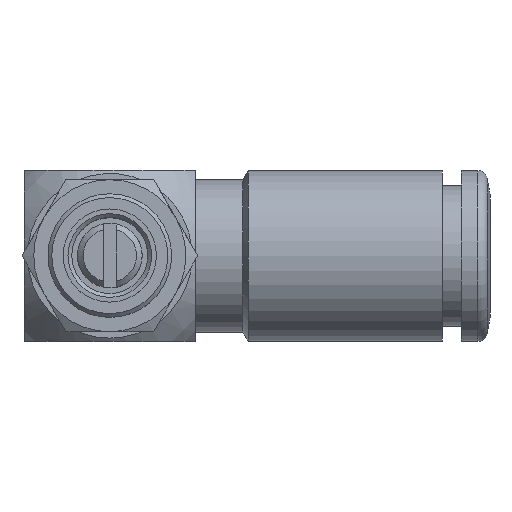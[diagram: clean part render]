
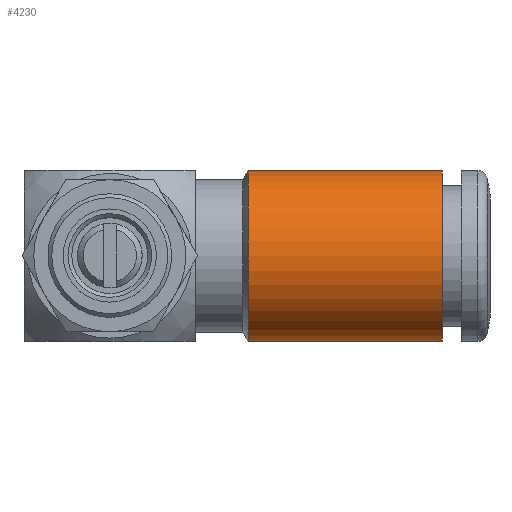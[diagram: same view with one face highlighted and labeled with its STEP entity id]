
A CAD part, top view. The second image highlights one B-rep face of the part: STEP entity #4230.
In plain terms, the highlighted cylindrical face has radius 4.5 mm (diameter 9 mm), a full revolution.
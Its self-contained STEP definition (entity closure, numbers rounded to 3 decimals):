
#4230=ADVANCED_FACE('', (#4240,#4250), #4260, .T.);
#14540=AXIS2_PLACEMENT_3D('Ax2Pl3d', #14550, #14560, #14570);
#14580=AXIS2_PLACEMENT_3D('Ax2Pl3d', #14590, #14600, #14610);
#14620=AXIS2_PLACEMENT_3D('Ax2Pl3d', #14630, #14640, #14650);
#14550=CARTESIAN_POINT('HicPkt', (15.548,9.502,
18.419));
#90010=CARTESIAN_POINT('', (15.548,9.502,22.919));
#14590=CARTESIAN_POINT('HicPkt', (25.759,9.502,
18.419));
#14630=CARTESIAN_POINT('HicPkt', (25.759,9.502,
18.419));
#90020=CARTESIAN_POINT('', (25.759,9.502,22.919));
#91300=CIRCLE('Circle', #14540, 4.5);
#91310=CIRCLE('Circle', #14620, 4.5);
#4260=CYLINDRICAL_SURFACE('Zyl', #14580, 4.5);
#14560=DIRECTION('Axis', (-1.,0.,0.)
);
#14570=DIRECTION('RefDirection', (0.,
0.,-1.));
#14600=DIRECTION('Axis', (-1.,0.,0.)
);
#14610=DIRECTION('RefDirection', (0.,
0.,-1.));
#14640=DIRECTION('Axis', (-1.,0.,0.)
);
#14650=DIRECTION('RefDirection', (0.,
0.,-1.));
#101620=EDGE_CURVE('', #101630, #101630, #91300, .T.);
#101640=EDGE_CURVE('', #101650, #101650, #91310, .T.);
#107410=EDGE_LOOP('Edge_loop', (#107420));
#107430=EDGE_LOOP('Edge_loop', (#107440));
#4250=FACE_BOUND('', #107430, .T.);
#4240=FACE_OUTER_BOUND('Face_outer_bound', #107410, .T.);
#107420=ORIENTED_EDGE('', *, *, #101620, .F.);
#107440=ORIENTED_EDGE('', *, *, #101640, .T.);
#101630=VERTEX_POINT('', #90010);
#101650=VERTEX_POINT('', #90020);
